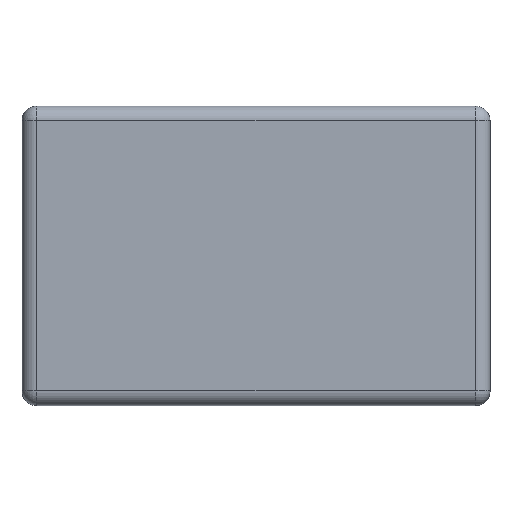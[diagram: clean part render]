
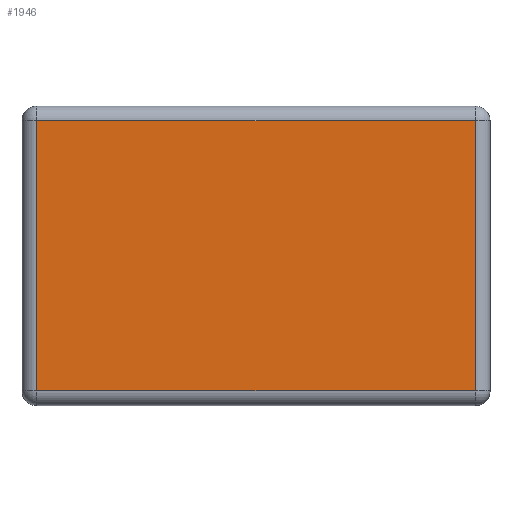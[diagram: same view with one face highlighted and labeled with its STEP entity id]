
A CAD part, top view. The second image highlights one B-rep face of the part: STEP entity #1946.
In plain terms, the highlighted planar face has unit normal (0, 0, 1).
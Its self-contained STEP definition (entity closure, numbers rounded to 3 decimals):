
#22 = CARTESIAN_POINT ( 'NONE',  ( 30.75, 19.32, 10.2 ) ) ;
#92 = CARTESIAN_POINT ( 'NONE',  ( 1., 19.32, 10.2 ) ) ;
#348 = VERTEX_POINT ( 'NONE', #2749 ) ;
#400 = LINE ( 'NONE', #3670, #3420 ) ;
#467 = PLANE ( 'NONE',  #973 ) ;
#557 = EDGE_CURVE ( 'NONE', #3634, #348, #2893, .T. ) ;
#623 = EDGE_LOOP ( 'NONE', ( #1618, #1556, #3103, #2995 ) ) ;
#801 = CARTESIAN_POINT ( 'NONE',  ( 1., 1., 10.2 ) ) ;
#837 = CARTESIAN_POINT ( 'NONE',  ( 30.75, 19.32, 10.2 ) ) ;
#973 = AXIS2_PLACEMENT_3D ( 'NONE', #3121, #1348, #3415 ) ;
#1013 = EDGE_CURVE ( 'NONE', #1412, #1135, #1132, .T. ) ;
#1132 = LINE ( 'NONE', #2017, #2591 ) ;
#1135 = VERTEX_POINT ( 'NONE', #92 ) ;
#1329 = VECTOR ( 'NONE', #1396, 1000. ) ;
#1348 = DIRECTION ( 'NONE',  ( 0., 0., 1. ) ) ;
#1396 = DIRECTION ( 'NONE',  ( 0., -1., 0. ) ) ;
#1411 = VECTOR ( 'NONE', #1582, 1000. ) ;
#1412 = VERTEX_POINT ( 'NONE', #801 ) ;
#1556 = ORIENTED_EDGE ( 'NONE', *, *, #1013, .F. ) ;
#1582 = DIRECTION ( 'NONE',  ( -1., 0., 0. ) ) ;
#1618 = ORIENTED_EDGE ( 'NONE', *, *, #3250, .F. ) ;
#1781 = FACE_OUTER_BOUND ( 'NONE', #623, .T. ) ;
#1946 = ADVANCED_FACE ( 'NONE', ( #1781 ), #467, .T. ) ;
#2017 = CARTESIAN_POINT ( 'NONE',  ( 1., 1., 10.2 ) ) ;
#2499 = DIRECTION ( 'NONE',  ( 1., 0., 0. ) ) ;
#2574 = EDGE_CURVE ( 'NONE', #348, #1412, #3758, .T. ) ;
#2591 = VECTOR ( 'NONE', #3470, 1000. ) ;
#2749 = CARTESIAN_POINT ( 'NONE',  ( 30.75, 1., 10.2 ) ) ;
#2893 = LINE ( 'NONE', #837, #1329 ) ;
#2995 = ORIENTED_EDGE ( 'NONE', *, *, #557, .F. ) ;
#3070 = CARTESIAN_POINT ( 'NONE',  ( 30.75, 1., 10.2 ) ) ;
#3103 = ORIENTED_EDGE ( 'NONE', *, *, #2574, .F. ) ;
#3121 = CARTESIAN_POINT ( 'NONE',  ( 0., 0., 10.2 ) ) ;
#3250 = EDGE_CURVE ( 'NONE', #1135, #3634, #400, .T. ) ;
#3415 = DIRECTION ( 'NONE',  ( 1., 0., 0. ) ) ;
#3420 = VECTOR ( 'NONE', #2499, 1000. ) ;
#3470 = DIRECTION ( 'NONE',  ( 0., 1., 0. ) ) ;
#3634 = VERTEX_POINT ( 'NONE', #22 ) ;
#3670 = CARTESIAN_POINT ( 'NONE',  ( 1., 19.32, 10.2 ) ) ;
#3758 = LINE ( 'NONE', #3070, #1411 ) ;
